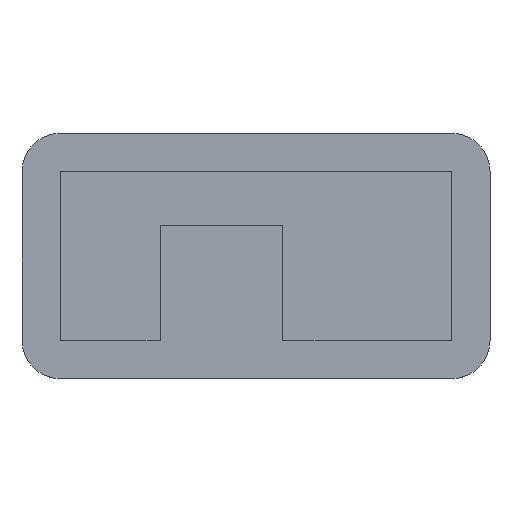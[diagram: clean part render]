
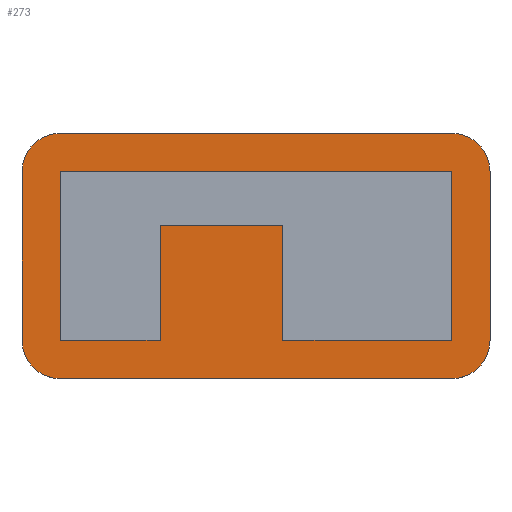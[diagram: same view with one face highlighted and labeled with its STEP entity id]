
A CAD part, top view. The second image highlights one B-rep face of the part: STEP entity #273.
In plain terms, the highlighted planar face has unit normal (0, 0, 1).
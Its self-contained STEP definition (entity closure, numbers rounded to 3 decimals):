
#21 = EDGE_CURVE('',#22,#24,#26,.T.);
#22 = VERTEX_POINT('',#23);
#23 = CARTESIAN_POINT('',(-52.,12.,6.5));
#24 = VERTEX_POINT('',#25);
#25 = CARTESIAN_POINT('',(-52.,56.,6.5));
#26 = LINE('',#27,#28);
#27 = CARTESIAN_POINT('',(-52.,2.,6.5));
#28 = VECTOR('',#29,1.);
#29 = DIRECTION('',(-0.,1.,0.));
#71 = VERTEX_POINT('',#72);
#72 = CARTESIAN_POINT('',(-42.,2.,6.5));
#78 = EDGE_CURVE('',#22,#71,#79,.T.);
#79 = CIRCLE('',#80,10.);
#80 = AXIS2_PLACEMENT_3D('',#81,#82,#83);
#81 = CARTESIAN_POINT('',(-42.,12.,6.5));
#82 = DIRECTION('',(0.,0.,1.));
#83 = DIRECTION('',(0.,-1.,0.));
#104 = VERTEX_POINT('',#105);
#105 = CARTESIAN_POINT('',(-42.,66.,6.5));
#111 = EDGE_CURVE('',#24,#104,#112,.T.);
#112 = CIRCLE('',#113,10.);
#113 = AXIS2_PLACEMENT_3D('',#114,#115,#116);
#114 = CARTESIAN_POINT('',(-42.,56.,6.5));
#115 = DIRECTION('',(-0.,-0.,-1.));
#116 = DIRECTION('',(0.,-1.,0.));
#136 = EDGE_CURVE('',#71,#137,#139,.T.);
#137 = VERTEX_POINT('',#138);
#138 = CARTESIAN_POINT('',(60.,2.,6.5));
#139 = LINE('',#140,#141);
#140 = CARTESIAN_POINT('',(-52.,2.,6.5));
#141 = VECTOR('',#142,1.);
#142 = DIRECTION('',(1.,0.,-0.));
#167 = EDGE_CURVE('',#104,#168,#170,.T.);
#168 = VERTEX_POINT('',#169);
#169 = CARTESIAN_POINT('',(60.,66.,6.5));
#170 = LINE('',#171,#172);
#171 = CARTESIAN_POINT('',(-52.,66.,6.5));
#172 = VECTOR('',#173,1.);
#173 = DIRECTION('',(1.,0.,-0.));
#199 = EDGE_CURVE('',#200,#137,#202,.T.);
#200 = VERTEX_POINT('',#201);
#201 = CARTESIAN_POINT('',(70.,12.,6.5));
#202 = CIRCLE('',#203,10.);
#203 = AXIS2_PLACEMENT_3D('',#204,#205,#206);
#204 = CARTESIAN_POINT('',(60.,12.,6.5));
#205 = DIRECTION('',(-0.,-0.,-1.));
#206 = DIRECTION('',(0.,-1.,0.));
#232 = EDGE_CURVE('',#233,#168,#235,.T.);
#233 = VERTEX_POINT('',#234);
#234 = CARTESIAN_POINT('',(70.,56.,6.5));
#235 = CIRCLE('',#236,10.);
#236 = AXIS2_PLACEMENT_3D('',#237,#238,#239);
#237 = CARTESIAN_POINT('',(60.,56.,6.5));
#238 = DIRECTION('',(0.,0.,1.));
#239 = DIRECTION('',(0.,-1.,0.));
#255 = EDGE_CURVE('',#200,#233,#256,.T.);
#256 = LINE('',#257,#258);
#257 = CARTESIAN_POINT('',(70.,2.,6.5));
#258 = VECTOR('',#259,1.);
#259 = DIRECTION('',(-0.,1.,0.));
#273 = ADVANCED_FACE('',(#274,#284),#350,.T.);
#274 = FACE_BOUND('',#275,.T.);
#275 = EDGE_LOOP('',(#276,#277,#278,#279,#280,#281,#282,#283));
#276 = ORIENTED_EDGE('',*,*,#21,.F.);
#277 = ORIENTED_EDGE('',*,*,#78,.T.);
#278 = ORIENTED_EDGE('',*,*,#136,.T.);
#279 = ORIENTED_EDGE('',*,*,#199,.F.);
#280 = ORIENTED_EDGE('',*,*,#255,.T.);
#281 = ORIENTED_EDGE('',*,*,#232,.T.);
#282 = ORIENTED_EDGE('',*,*,#167,.F.);
#283 = ORIENTED_EDGE('',*,*,#111,.F.);
#284 = FACE_BOUND('',#285,.T.);
#285 = EDGE_LOOP('',(#286,#296,#304,#312,#320,#328,#336,#344));
#286 = ORIENTED_EDGE('',*,*,#287,.F.);
#287 = EDGE_CURVE('',#288,#290,#292,.T.);
#288 = VERTEX_POINT('',#289);
#289 = CARTESIAN_POINT('',(60.,12.,6.5));
#290 = VERTEX_POINT('',#291);
#291 = CARTESIAN_POINT('',(60.,56.,6.5));
#292 = LINE('',#293,#294);
#293 = CARTESIAN_POINT('',(60.,7.,6.5));
#294 = VECTOR('',#295,1.);
#295 = DIRECTION('',(-0.,1.,0.));
#296 = ORIENTED_EDGE('',*,*,#297,.T.);
#297 = EDGE_CURVE('',#288,#298,#300,.T.);
#298 = VERTEX_POINT('',#299);
#299 = CARTESIAN_POINT('',(16.,12.,6.5));
#300 = LINE('',#301,#302);
#301 = CARTESIAN_POINT('',(-47.,12.,6.5));
#302 = VECTOR('',#303,1.);
#303 = DIRECTION('',(-1.,-0.,0.));
#304 = ORIENTED_EDGE('',*,*,#305,.T.);
#305 = EDGE_CURVE('',#298,#306,#308,.T.);
#306 = VERTEX_POINT('',#307);
#307 = CARTESIAN_POINT('',(16.,42.,6.5));
#308 = LINE('',#309,#310);
#309 = CARTESIAN_POINT('',(16.,10.,6.5));
#310 = VECTOR('',#311,1.);
#311 = DIRECTION('',(-0.,1.,0.));
#312 = ORIENTED_EDGE('',*,*,#313,.F.);
#313 = EDGE_CURVE('',#314,#306,#316,.T.);
#314 = VERTEX_POINT('',#315);
#315 = CARTESIAN_POINT('',(-16.,42.,6.5));
#316 = LINE('',#317,#318);
#317 = CARTESIAN_POINT('',(-16.,42.,6.5));
#318 = VECTOR('',#319,1.);
#319 = DIRECTION('',(1.,0.,-0.));
#320 = ORIENTED_EDGE('',*,*,#321,.F.);
#321 = EDGE_CURVE('',#322,#314,#324,.T.);
#322 = VERTEX_POINT('',#323);
#323 = CARTESIAN_POINT('',(-16.,12.,6.5));
#324 = LINE('',#325,#326);
#325 = CARTESIAN_POINT('',(-16.,10.,6.5));
#326 = VECTOR('',#327,1.);
#327 = DIRECTION('',(-0.,1.,0.));
#328 = ORIENTED_EDGE('',*,*,#329,.T.);
#329 = EDGE_CURVE('',#322,#330,#332,.T.);
#330 = VERTEX_POINT('',#331);
#331 = CARTESIAN_POINT('',(-42.,12.,6.5));
#332 = LINE('',#333,#334);
#333 = CARTESIAN_POINT('',(-47.,12.,6.5));
#334 = VECTOR('',#335,1.);
#335 = DIRECTION('',(-1.,-0.,0.));
#336 = ORIENTED_EDGE('',*,*,#337,.T.);
#337 = EDGE_CURVE('',#330,#338,#340,.T.);
#338 = VERTEX_POINT('',#339);
#339 = CARTESIAN_POINT('',(-42.,56.,6.5));
#340 = LINE('',#341,#342);
#341 = CARTESIAN_POINT('',(-42.,7.,6.5));
#342 = VECTOR('',#343,1.);
#343 = DIRECTION('',(-0.,1.,0.));
#344 = ORIENTED_EDGE('',*,*,#345,.F.);
#345 = EDGE_CURVE('',#290,#338,#346,.T.);
#346 = LINE('',#347,#348);
#347 = CARTESIAN_POINT('',(-47.,56.,6.5));
#348 = VECTOR('',#349,1.);
#349 = DIRECTION('',(-1.,-0.,0.));
#350 = PLANE('',#351);
#351 = AXIS2_PLACEMENT_3D('',#352,#353,#354);
#352 = CARTESIAN_POINT('',(-52.,2.,6.5));
#353 = DIRECTION('',(0.,0.,1.));
#354 = DIRECTION('',(1.,0.,-0.));
